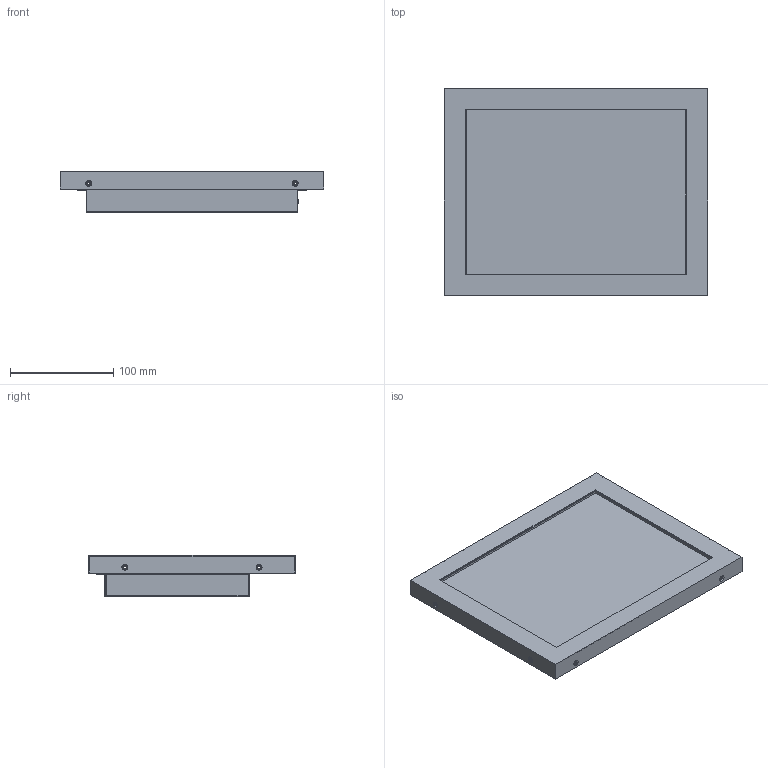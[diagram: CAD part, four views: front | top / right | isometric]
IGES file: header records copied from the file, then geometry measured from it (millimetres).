
Global section: file name: FIE104GMH-P; native system: AutoCAD 2019 – 繁體中文 (Traditional Chinese),62HAutode; preprocessor: sk Translation Framework DWG producer (atf_dwg_producer); organization: unknown; date: 20210623.115030; units: millimetre
Bounding box: 255 x 200 x 40.42 mm (x, y, z)
Volume: 462396.8 mm3; surface area: 468418 mm2
Topology: 17 solids, 17 shells, 2074 faces, 5628 edges, 3838 vertices
Faces by surface type: bspline 2074
